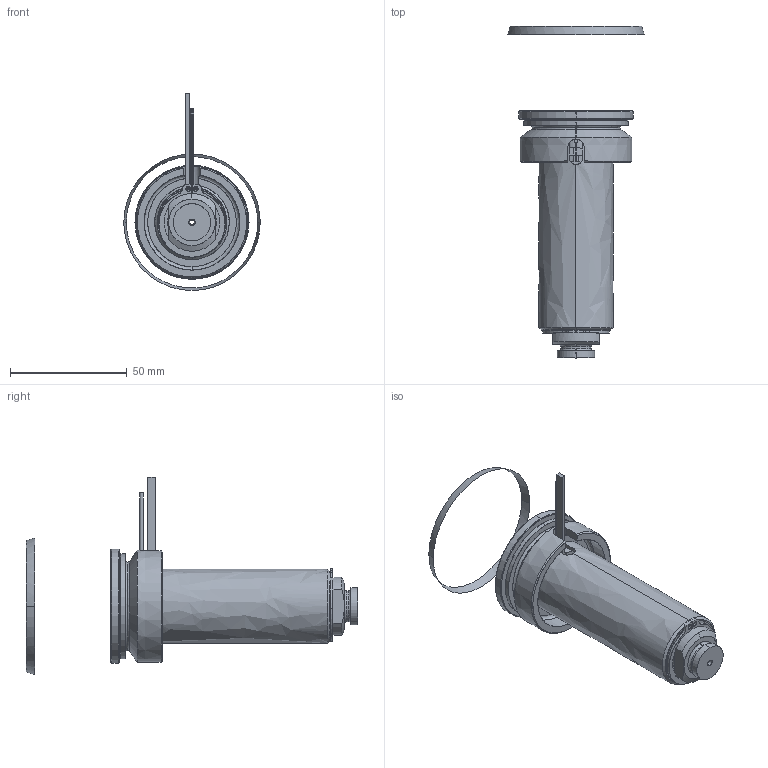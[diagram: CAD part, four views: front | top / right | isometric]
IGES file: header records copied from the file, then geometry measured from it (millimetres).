
Start section: SolidWorks IGES file using analytic representation for surfaces
Global section: file name: C:\Documents and Settings\ws-20\Desktop\TEMPORANEA\UGBE5002-S-A-3 [Ød-2.0 P-0 ØC-13].IGS; native system: SolidWorks 2012; preprocessor: SolidWorks 2012; author: ws-20; date: 120306.161814; units: millimetre
Bounding box: 58.57 x 142.44 x 84.59 mm (x, y, z)
Surface area: 41438.8 mm2 (no closed solid volume)
Topology: 0 solids, 0 shells, 114 faces, 2134 edges, 2134 vertices
Faces by surface type: revolution 70, bspline 44
